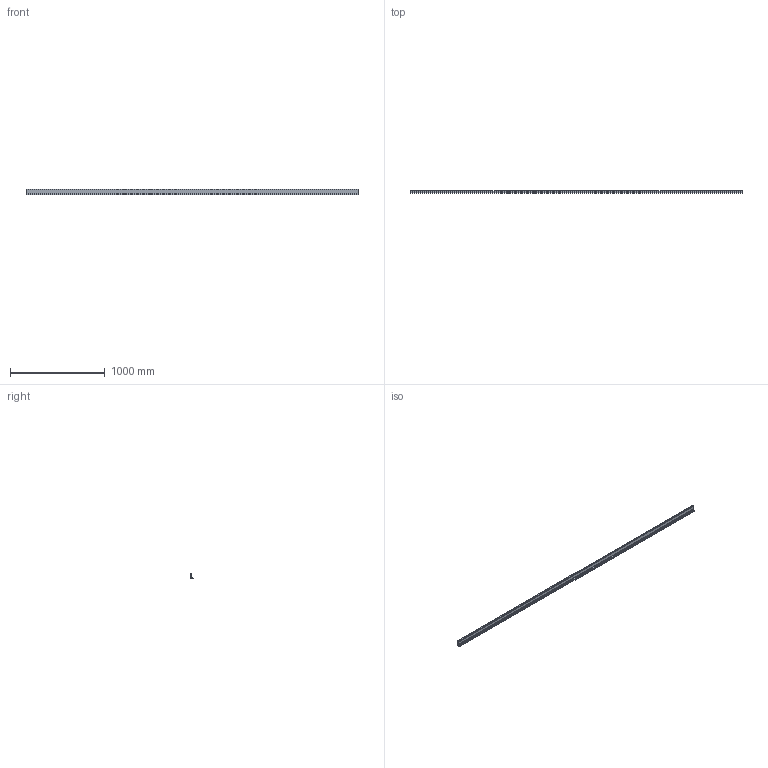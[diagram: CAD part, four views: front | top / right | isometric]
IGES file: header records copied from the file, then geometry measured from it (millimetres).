
Start section: Data from Parasolid IGES Translator 15.0.47, Copyright(c) 2006 Siemens P LM Software. All Rights Reserved.
Global section: file name: 9118966.igs; native system:  By UGS Corp.; preprocessor: XPlus GENERIC/IGES 3.0; author: Noname; organization: Noname; date: 20140122.175249; units: millimetre
Bounding box: 3500 x 30.01 x 60 mm (x, y, z)
Surface area: 1489147 mm2 (no closed solid volume)
Topology: 0 solids, 0 shells, 57 faces, 330 edges, 330 vertices
Faces by surface type: extrusion 50, revolution 7
